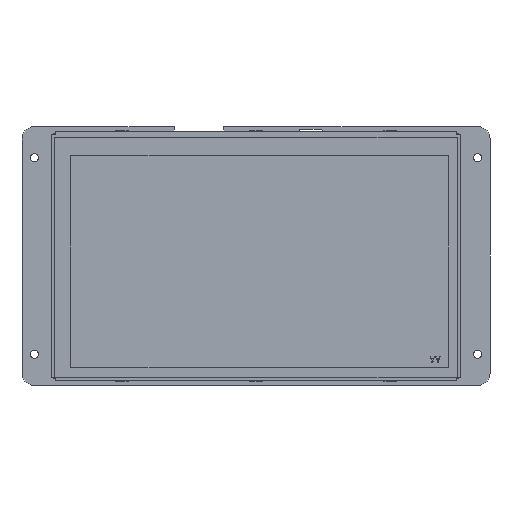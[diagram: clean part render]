
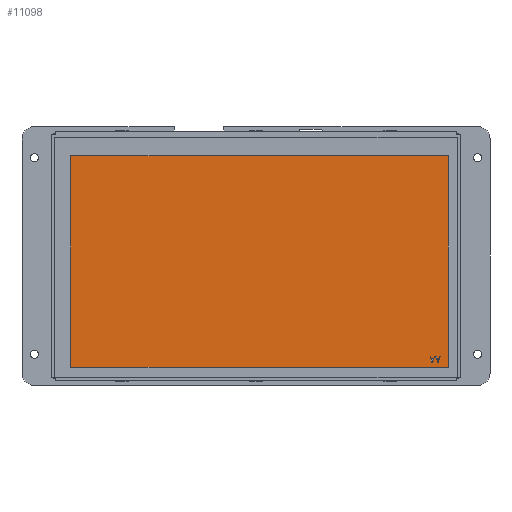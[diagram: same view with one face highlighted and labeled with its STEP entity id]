
A CAD part, front view. The second image highlights one B-rep face of the part: STEP entity #11098.
In plain terms, the highlighted planar face has unit normal (0, -1, 0) as drawn and (0, 1, 0) by its records, which use the part's own axes.
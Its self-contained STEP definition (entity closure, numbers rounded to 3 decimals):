
#10525=DIRECTION('',(0.,0.,1.));
#10526=VECTOR('',#10525,86.18);
#10527=CARTESIAN_POINT('',(-78.38,1.4,-44.77));
#10528=LINE('',#10527,#10526);
#10529=DIRECTION('',(-1.,0.,0.));
#10530=VECTOR('',#10529,153.68);
#10531=CARTESIAN_POINT('',(75.3,1.4,-44.77));
#10532=LINE('',#10531,#10530);
#10533=DIRECTION('',(0.,0.,-1.));
#10534=VECTOR('',#10533,86.18);
#10535=CARTESIAN_POINT('',(75.3,1.4,41.41));
#10536=LINE('',#10535,#10534);
#10537=DIRECTION('',(1.,0.,0.));
#10538=VECTOR('',#10537,153.68);
#10539=CARTESIAN_POINT('',(-78.38,1.4,41.41));
#10540=LINE('',#10539,#10538);
#10541=DIRECTION('',(0.316,0.,0.949));
#10542=VECTOR('',#10541,2.351);
#10543=CARTESIAN_POINT('',(-73.902,1.4,-42.607));
#10544=LINE('',#10543,#10542);
#10545=DIRECTION('',(1.,0.,0.));
#10546=VECTOR('',#10545,0.372);
#10547=CARTESIAN_POINT('',(-74.273,1.4,-42.607));
#10548=LINE('',#10547,#10546);
#10549=DIRECTION('',(0.316,0.,-0.949));
#10550=VECTOR('',#10549,2.351);
#10551=CARTESIAN_POINT('',(-75.017,1.4,-40.377));
#10552=LINE('',#10551,#10550);
#10553=DIRECTION('',(-1.,0.,0.));
#10554=VECTOR('',#10553,0.279);
#10555=CARTESIAN_POINT('',(-74.738,1.4,-40.377));
#10556=LINE('',#10555,#10554);
#10557=DIRECTION('',(-0.31,0.,0.951));
#10558=VECTOR('',#10557,0.599);
#10559=CARTESIAN_POINT('',(-74.552,1.4,-40.946));
#10560=LINE('',#10559,#10558);
#10561=DIRECTION('',(-1.,0.,0.));
#10562=VECTOR('',#10561,0.929);
#10563=CARTESIAN_POINT('',(-73.623,1.4,-40.946));
#10564=LINE('',#10563,#10562);
#10565=DIRECTION('',(-0.31,0.,-0.951));
#10566=VECTOR('',#10565,0.599);
#10567=CARTESIAN_POINT('',(-73.437,1.4,-40.377));
#10568=LINE('',#10567,#10566);
#10569=DIRECTION('',(-1.,0.,0.));
#10570=VECTOR('',#10569,0.279);
#10571=CARTESIAN_POINT('',(-73.158,1.4,-40.377));
#10572=LINE('',#10571,#10570);
#10585=DIRECTION('',(0.316,0.,0.949));
#10586=VECTOR('',#10585,2.351);
#10587=CARTESIAN_POINT('',(-71.672,1.4,-42.607));
#10588=LINE('',#10587,#10586);
#10589=DIRECTION('',(1.,0.,0.));
#10590=VECTOR('',#10589,0.372);
#10591=CARTESIAN_POINT('',(-72.043,1.4,-42.607));
#10592=LINE('',#10591,#10590);
#10593=DIRECTION('',(0.316,0.,-0.949));
#10594=VECTOR('',#10593,2.351);
#10595=CARTESIAN_POINT('',(-72.787,1.4,-40.377));
#10596=LINE('',#10595,#10594);
#10597=DIRECTION('',(-1.,0.,0.));
#10598=VECTOR('',#10597,0.279);
#10599=CARTESIAN_POINT('',(-72.508,1.4,-40.377));
#10600=LINE('',#10599,#10598);
#10601=DIRECTION('',(-0.31,0.,0.951));
#10602=VECTOR('',#10601,0.599);
#10603=CARTESIAN_POINT('',(-72.322,1.4,-40.946));
#10604=LINE('',#10603,#10602);
#10605=DIRECTION('',(-1.,0.,0.));
#10606=VECTOR('',#10605,0.929);
#10607=CARTESIAN_POINT('',(-71.393,1.4,-40.946));
#10608=LINE('',#10607,#10606);
#10609=DIRECTION('',(-0.31,0.,-0.951));
#10610=VECTOR('',#10609,0.599);
#10611=CARTESIAN_POINT('',(-71.207,1.4,-40.377));
#10612=LINE('',#10611,#10610);
#10613=DIRECTION('',(-1.,0.,0.));
#10614=VECTOR('',#10613,0.279);
#10615=CARTESIAN_POINT('',(-70.928,1.4,-40.377));
#10616=LINE('',#10615,#10614);
#10733=CARTESIAN_POINT('',(-78.38,1.4,-44.77));
#10734=CARTESIAN_POINT('',(-78.38,1.4,41.41));
#10735=VERTEX_POINT('',#10733);
#10736=VERTEX_POINT('',#10734);
#10737=CARTESIAN_POINT('',(75.3,1.4,41.41));
#10738=VERTEX_POINT('',#10737);
#10739=CARTESIAN_POINT('',(75.3,1.4,-44.77));
#10740=VERTEX_POINT('',#10739);
#10741=CARTESIAN_POINT('',(-73.902,1.4,-42.607));
#10742=CARTESIAN_POINT('',(-73.158,1.4,-40.377));
#10743=VERTEX_POINT('',#10741);
#10744=VERTEX_POINT('',#10742);
#10745=CARTESIAN_POINT('',(-73.437,1.4,-40.377));
#10746=VERTEX_POINT('',#10745);
#10747=CARTESIAN_POINT('',(-73.623,1.4,-40.946));
#10748=VERTEX_POINT('',#10747);
#10749=CARTESIAN_POINT('',(-74.552,1.4,-40.946));
#10750=VERTEX_POINT('',#10749);
#10751=CARTESIAN_POINT('',(-74.738,1.4,-40.377));
#10752=VERTEX_POINT('',#10751);
#10753=CARTESIAN_POINT('',(-75.017,1.4,-40.377));
#10754=VERTEX_POINT('',#10753);
#10755=CARTESIAN_POINT('',(-74.273,1.4,-42.607));
#10756=VERTEX_POINT('',#10755);
#10763=CARTESIAN_POINT('',(-71.672,1.4,-42.607));
#10764=CARTESIAN_POINT('',(-70.928,1.4,-40.377));
#10765=VERTEX_POINT('',#10763);
#10766=VERTEX_POINT('',#10764);
#10767=CARTESIAN_POINT('',(-71.207,1.4,-40.377));
#10768=VERTEX_POINT('',#10767);
#10769=CARTESIAN_POINT('',(-71.393,1.4,-40.946));
#10770=VERTEX_POINT('',#10769);
#10771=CARTESIAN_POINT('',(-72.322,1.4,-40.946));
#10772=VERTEX_POINT('',#10771);
#10773=CARTESIAN_POINT('',(-72.508,1.4,-40.377));
#10774=VERTEX_POINT('',#10773);
#10775=CARTESIAN_POINT('',(-72.787,1.4,-40.377));
#10776=VERTEX_POINT('',#10775);
#10777=CARTESIAN_POINT('',(-72.043,1.4,-42.607));
#10778=VERTEX_POINT('',#10777);
#11051=CARTESIAN_POINT('',(0.,1.4,0.));
#11052=DIRECTION('',(0.,1.,0.));
#11053=DIRECTION('',(1.,0.,0.));
#11054=AXIS2_PLACEMENT_3D('',#11051,#11052,#11053);
#11055=PLANE('',#11054);
#11056=ORIENTED_EDGE('',*,*,#11003,.F.);
#11057=ORIENTED_EDGE('',*,*,#11018,.F.);
#11058=ORIENTED_EDGE('',*,*,#11032,.F.);
#11059=ORIENTED_EDGE('',*,*,#11045,.F.);
#11060=EDGE_LOOP('',(#11056,#11057,#11058,#11059));
#11061=FACE_OUTER_BOUND('',#11060,.F.);
#11063=ORIENTED_EDGE('',*,*,#11062,.F.);
#11065=ORIENTED_EDGE('',*,*,#11064,.F.);
#11067=ORIENTED_EDGE('',*,*,#11066,.F.);
#11069=ORIENTED_EDGE('',*,*,#11068,.F.);
#11071=ORIENTED_EDGE('',*,*,#11070,.F.);
#11073=ORIENTED_EDGE('',*,*,#11072,.F.);
#11075=ORIENTED_EDGE('',*,*,#11074,.F.);
#11077=ORIENTED_EDGE('',*,*,#11076,.F.);
#11078=EDGE_LOOP('',(#11063,#11065,#11067,#11069,#11071,#11073,#11075,#11077));
#11079=FACE_BOUND('',#11078,.F.);
#11081=ORIENTED_EDGE('',*,*,#11080,.F.);
#11083=ORIENTED_EDGE('',*,*,#11082,.F.);
#11085=ORIENTED_EDGE('',*,*,#11084,.F.);
#11087=ORIENTED_EDGE('',*,*,#11086,.F.);
#11089=ORIENTED_EDGE('',*,*,#11088,.F.);
#11091=ORIENTED_EDGE('',*,*,#11090,.F.);
#11093=ORIENTED_EDGE('',*,*,#11092,.F.);
#11095=ORIENTED_EDGE('',*,*,#11094,.F.);
#11096=EDGE_LOOP('',(#11081,#11083,#11085,#11087,#11089,#11091,#11093,#11095));
#11097=FACE_BOUND('',#11096,.F.);
#11003=EDGE_CURVE('',#10735,#10736,#10528,.T.);
#11018=EDGE_CURVE('',#10740,#10735,#10532,.T.);
#11032=EDGE_CURVE('',#10738,#10740,#10536,.T.);
#11045=EDGE_CURVE('',#10736,#10738,#10540,.T.);
#11062=EDGE_CURVE('',#10743,#10744,#10544,.T.);
#11064=EDGE_CURVE('',#10756,#10743,#10548,.T.);
#11066=EDGE_CURVE('',#10754,#10756,#10552,.T.);
#11068=EDGE_CURVE('',#10752,#10754,#10556,.T.);
#11070=EDGE_CURVE('',#10750,#10752,#10560,.T.);
#11072=EDGE_CURVE('',#10748,#10750,#10564,.T.);
#11074=EDGE_CURVE('',#10746,#10748,#10568,.T.);
#11076=EDGE_CURVE('',#10744,#10746,#10572,.T.);
#11080=EDGE_CURVE('',#10765,#10766,#10588,.T.);
#11082=EDGE_CURVE('',#10778,#10765,#10592,.T.);
#11084=EDGE_CURVE('',#10776,#10778,#10596,.T.);
#11086=EDGE_CURVE('',#10774,#10776,#10600,.T.);
#11088=EDGE_CURVE('',#10772,#10774,#10604,.T.);
#11090=EDGE_CURVE('',#10770,#10772,#10608,.T.);
#11092=EDGE_CURVE('',#10768,#10770,#10612,.T.);
#11094=EDGE_CURVE('',#10766,#10768,#10616,.T.);
#11098=ADVANCED_FACE('',(#11061,#11079,#11097),#11055,.T.);
